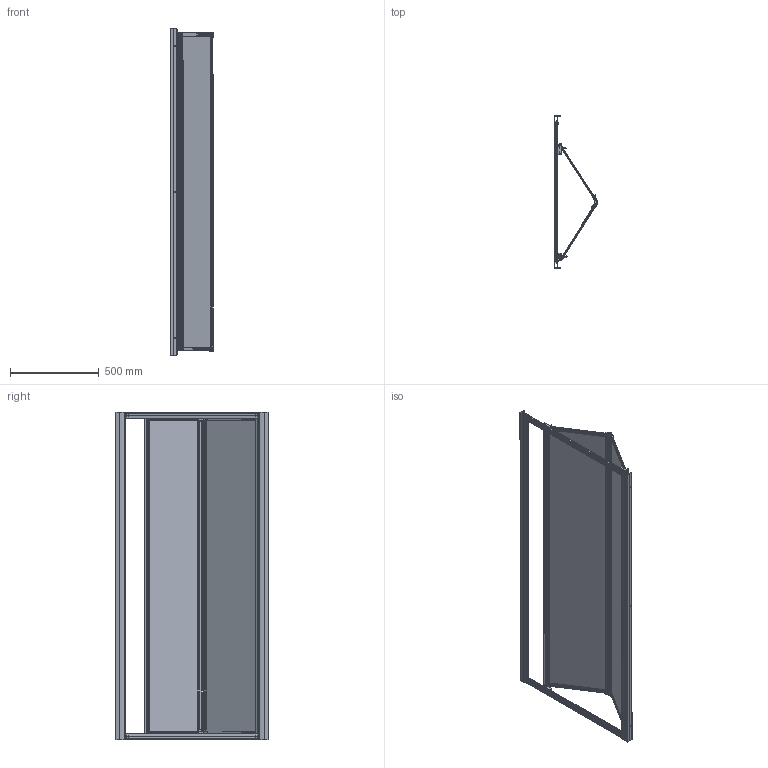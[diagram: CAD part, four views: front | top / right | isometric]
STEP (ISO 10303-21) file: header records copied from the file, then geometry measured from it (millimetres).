
FILE_DESCRIPTION(/* description */ (''),/* implementation_level */ '2;1');
FILE_NAME(/* name */ 'C:\Users\benassi\Desktop\dwg 3D\America tre 2019\America 3 soffietto 86-94.stp',/* time_stamp */ '2018-07-17T14:32:54+02:00',/* author */ ('benassi'),/* organization */ (''),/* preprocessor_version */ 'ST-DEVELOPER v16.1',/* originating_system */ 'Autodesk Inventor 2016',/* authorisation */ '');
FILE_SCHEMA (('AUTOMOTIVE_DESIGN { 1 0 10303 214 3 1 1 }'));
Length unit declared in the file: millimetre
Products named in the file (27): 10000021304; 10000008458; 10000008457; 10000004703_IPT_000; 10000021106; 10000013432; 10000013433; 10000013434; 10000021490; 10000021490_1; 10000000404_IPT_000; 10000002536_IPT_000; 10000000403_IPT_000; 10000008514; 10000008510; 10000008509; 10000008511; 10000008512; 10000008515; 10000008966; 10000021512; 10000021513; Cuscinetto-Asia; Blocch-Scorr-America_Up; Blocch-Scorr-Sx-America_Up; VITE TC 2,9-38; 10000021510
Assembly tree (48 placements, depth 3):
  10000021510
    10000021304  x2
    10000008458  x2
    10000008457  x2
    10000004703_IPT_000  x2
    10000021106  x2
    10000013434  x4
      10000013432
      10000013433
    10000021490
    10000021490_1
    10000000404_IPT_000
    10000002536_IPT_000  x2
    10000000403_IPT_000
    10000008514  x2
    10000008510  x2
    10000008509
    10000008511
    10000008512
    10000008515
    10000008966  x2
    10000021512  x4
    10000021513  x2
    Cuscinetto-Asia  x4
    Blocch-Scorr-America_Up
    Blocch-Scorr-Sx-America_Up
    VITE TC 2,9-38  x4
Bounding box: 247.67 x 859.58 x 1850.02 mm (x, y, z)
Volume: 6156787 mm3; surface area: 6659035.1 mm2
Topology: 50 solids, 50 shells, 2368 faces, 6498 edges, 4256 vertices
Faces by surface type: cylinder 1102, plane 1072, cone 96, torus 70, sphere 16, bspline 12
Full cylindrical faces by diameter (mm): 2.9 x4, 3 x4, 3.1 x4, 3.9 x4, 4 x12, 4.2 x4, 4.25 x8, 4.5 x4, 5 x8, 5.9 x4, 6 x6, 6.2 x4, 6.3 x4, 7 x2, 7.3 x4, 7.6 x8, 8 x4, 8.5 x4, 8.7 x2, 9 x12, 10 x4, 10.7 x2, 11 x2
Entity records: 45357 total; most frequent: CARTESIAN_POINT 9006, DIRECTION 7739, ORIENTED_EDGE 7200, EDGE_CURVE 3600, AXIS2_PLACEMENT_3D 2841, VERTEX_POINT 2401, LINE 2057, VECTOR 2057
